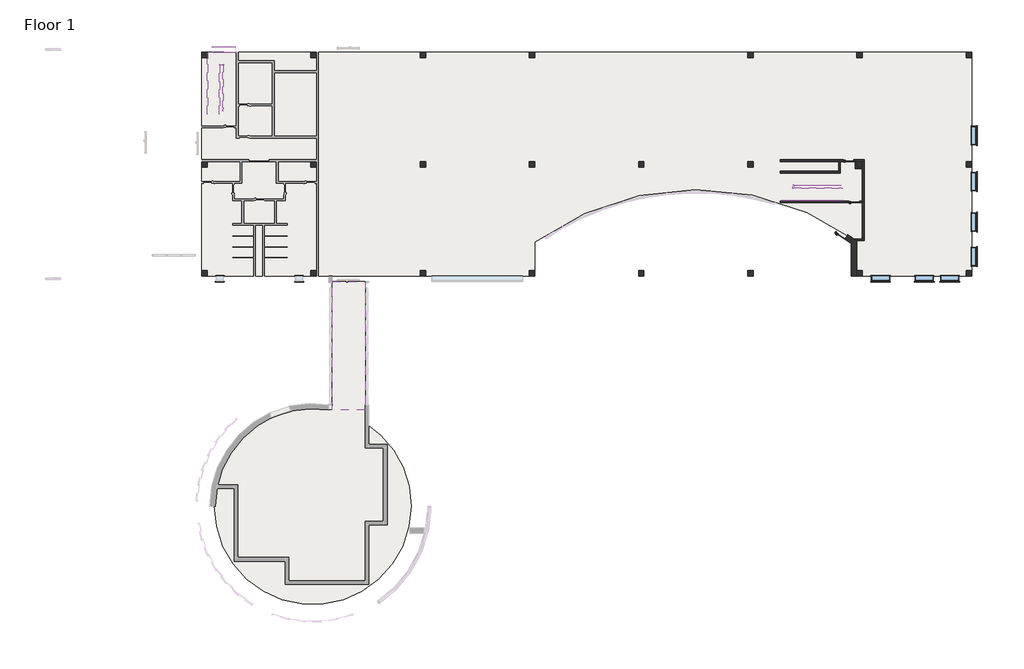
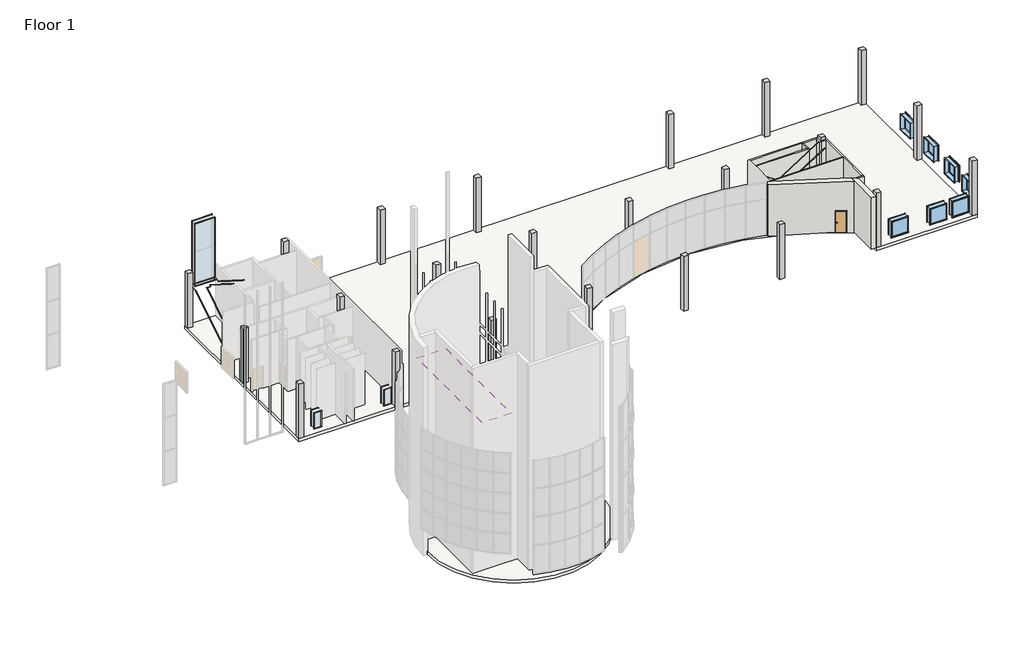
# One storey, part 11 of 11: 23 columns, 20 proxies, 10 walls, 7 windows, 4 railings, 3 doors, 2 slabs, 1 covering.
"""IFC4 building model written with IfcOpenShell, lengths in millimetres."""

from ifc_helpers import new_model, si_unit, point, frame, frame_2d, origin, origin_with_axes, place, context, project, spatial, polyline, circle_curve, trimmed, segment, composite_curve, outline, extrude, faceted_brep, transform, mapped, element, save
from ifc_brep_helpers import plane_surface, cylinder_surface, revolved_surface, advanced_brep
from components import trim_window_exterior_flat_with_sill_05ca63db, trim_window_exterior_flat_with_sill_953729a5, trim_window_exterior_flat_with_sill_4912eb0d, trim_window_interior_flat_picture_frame_a1a3bc7c, trim_window_interior_flat_picture_frame_4e25f6c2, trim_window_interior_flat_picture_frame_978fd00d, column_b6e10527, door_36f17018, door_fea31935, stair_railing_1_a10cea20, stair_railing_1_f20ecf36, stair_railing_1_b1bba10e, stair_railing_1_19f522ab, window_45f0c9e0

model = new_model("IFC4")

# Units and contexts
model_context = context("Model", 3, world=origin())
ifc_project = project(units=[si_unit("LENGTHUNIT", "METRE", prefix="MILLI")], contexts=[model_context])

# Site, building, storey
site = spatial("IfcSite", under=ifc_project)
building = spatial("IfcBuilding", under=site)
storey = spatial("IfcBuildingStorey", under=building, Name="Floor 1", Elevation=0.0)

# Proxies
placement = place(None, origin())
trim_window_exterior_flat_with_sill_shape = trim_window_exterior_flat_with_sill_05ca63db(model_context)
element("IfcBuildingElementProxy", 1, Name="Trim-Window-Exterior-Flat : with Sill", ObjectType="Trim-Window-Exterior-Flat : with Sill", at=placement, inside=storey, context=model_context, shape_type="MappedRepresentation", body=[
    mapped(trim_window_exterior_flat_with_sill_shape, transform((61956.9817024, 40245.511889, 2438.4), x_axis=(0.0, 1.0, 0.0), y_axis=(0.0, 0.0, 1.0), z_axis=(1.0, 0.0, 0.0))),
])
element("IfcBuildingElementProxy", 2, Name="Trim-Window-Exterior-Flat : with Sill", ObjectType="Trim-Window-Exterior-Flat : with Sill", at=placement, inside=storey, context=model_context, shape_type="MappedRepresentation", body=[
    mapped(trim_window_exterior_flat_with_sill_shape, transform((61956.9817024, 43141.111889, 2438.4), x_axis=(0.0, 1.0, 0.0), y_axis=(0.0, 0.0, 1.0), z_axis=(1.0, 0.0, 0.0))),
])
element("IfcBuildingElementProxy", 3, Name="Trim-Window-Exterior-Flat : with Sill", ObjectType="Trim-Window-Exterior-Flat : with Sill", at=placement, inside=storey, context=model_context, shape_type="MappedRepresentation", body=[
    mapped(trim_window_exterior_flat_with_sill_shape, transform((61956.9817024, 46544.711889, 2438.4), x_axis=(0.0, 1.0, 0.0), y_axis=(0.0, 0.0, 1.0), z_axis=(1.0, 0.0, 0.0))),
])
element("IfcBuildingElementProxy", 4, Name="Trim-Window-Exterior-Flat : with Sill", ObjectType="Trim-Window-Exterior-Flat : with Sill", at=placement, inside=storey, context=model_context, shape_type="MappedRepresentation", body=[
    mapped(trim_window_exterior_flat_with_sill_shape, transform((61956.9817024, 50405.511889, 2438.4), x_axis=(0.0, 1.0, 0.0), y_axis=(0.0, 0.0, 1.0), z_axis=(1.0, 0.0, 0.0))),
])
element("IfcBuildingElementProxy", 5, Name="Trim-Window-Exterior-Flat : with Sill", ObjectType="Trim-Window-Exterior-Flat : with Sill", at=placement, inside=storey, context=model_context, shape_type="MappedRepresentation", body=[
    mapped(trim_window_exterior_flat_with_sill_shape, transform((59672.5692024, 38164.299389, 2438.4), x_axis=(1.0, 0.0, 0.0), y_axis=(0.0, 0.0, 1.0), z_axis=(0.0, -1.0, 0.0))),
])
element("IfcBuildingElementProxy", 6, Name="Trim-Window-Exterior-Flat : with Sill", ObjectType="Trim-Window-Exterior-Flat : with Sill", at=placement, inside=storey, context=model_context, shape_type="MappedRepresentation", body=[
    mapped(trim_window_exterior_flat_with_sill_shape, transform((57538.9692024, 38164.299389, 2438.4), x_axis=(1.0, 0.0, 0.0), y_axis=(0.0, 0.0, 1.0), z_axis=(0.0, -1.0, 0.0))),
])
element("IfcBuildingElementProxy", 7, Name="Trim-Window-Exterior-Flat : with Sill", ObjectType="Trim-Window-Exterior-Flat : with Sill", at=placement, inside=storey, context=model_context, shape_type="MappedRepresentation", body=[
    mapped(trim_window_exterior_flat_with_sill_shape, transform((53881.3692024, 38164.299389, 2438.4), x_axis=(1.0, 0.0, 0.0), y_axis=(0.0, 0.0, 1.0), z_axis=(0.0, -1.0, 0.0))),
])
trim_window_exterior_flat_with_sill_2_shape = trim_window_exterior_flat_with_sill_953729a5(model_context)
element("IfcBuildingElementProxy", 8, Name="Trim-Window-Exterior-Flat : with Sill", ObjectType="Trim-Window-Exterior-Flat : with Sill", at=placement, inside=storey, context=model_context, shape_type="MappedRepresentation", body=[
    mapped(trim_window_exterior_flat_with_sill_2_shape, transform((-1084.2307976, 57820.724389, 9906.0), x_axis=(-1.0, 0.0, 0.0), y_axis=(0.0, 0.0, 1.0), z_axis=(0.0, 1.0, 0.0))),
])
trim_window_exterior_flat_with_sill_3_shape = trim_window_exterior_flat_with_sill_4912eb0d(model_context)
element("IfcBuildingElementProxy", 9, Name="Trim-Window-Exterior-Flat : with Sill", ObjectType="Trim-Window-Exterior-Flat : with Sill", at=placement, inside=storey, context=model_context, shape_type="MappedRepresentation", body=[
    mapped(trim_window_exterior_flat_with_sill_3_shape, transform((-1446.1807976, 38164.299389, 2438.4), x_axis=(1.0, 0.0, 0.0), y_axis=(0.0, 0.0, 1.0), z_axis=(0.0, -1.0, 0.0))),
])
element("IfcBuildingElementProxy", 10, Name="Trim-Window-Exterior-Flat : with Sill", ObjectType="Trim-Window-Exterior-Flat : with Sill", at=placement, inside=storey, context=model_context, shape_type="MappedRepresentation", body=[
    mapped(trim_window_exterior_flat_with_sill_3_shape, transform((5189.5692024, 38164.299389, 2438.4), x_axis=(1.0, 0.0, 0.0), y_axis=(0.0, 0.0, 1.0), z_axis=(0.0, -1.0, 0.0))),
])
trim_window_interior_flat_picture_frame_shape = trim_window_interior_flat_picture_frame_a1a3bc7c(model_context)
element("IfcBuildingElementProxy", 11, Name="Trim-Window-Interior-Flat : Picture Frame", ObjectType="Trim-Window-Interior-Flat : Picture Frame", at=placement, inside=storey, context=model_context, shape_type="MappedRepresentation", body=[
    mapped(trim_window_interior_flat_picture_frame_shape, transform((61502.9567024, 40245.511889, 2438.4), x_axis=(0.0, -1.0, 0.0), y_axis=(0.0, 0.0, 1.0), z_axis=(-1.0, 0.0, 0.0))),
])
element("IfcBuildingElementProxy", 12, Name="Trim-Window-Interior-Flat : Picture Frame", ObjectType="Trim-Window-Interior-Flat : Picture Frame", at=placement, inside=storey, context=model_context, shape_type="MappedRepresentation", body=[
    mapped(trim_window_interior_flat_picture_frame_shape, transform((61502.9567024, 43141.111889, 2438.4), x_axis=(0.0, -1.0, 0.0), y_axis=(0.0, 0.0, 1.0), z_axis=(-1.0, 0.0, 0.0))),
])
element("IfcBuildingElementProxy", 13, Name="Trim-Window-Interior-Flat : Picture Frame", ObjectType="Trim-Window-Interior-Flat : Picture Frame", at=placement, inside=storey, context=model_context, shape_type="MappedRepresentation", body=[
    mapped(trim_window_interior_flat_picture_frame_shape, transform((61502.9567024, 46544.711889, 2438.4), x_axis=(0.0, -1.0, 0.0), y_axis=(0.0, 0.0, 1.0), z_axis=(-1.0, 0.0, 0.0))),
])
element("IfcBuildingElementProxy", 14, Name="Trim-Window-Interior-Flat : Picture Frame", ObjectType="Trim-Window-Interior-Flat : Picture Frame", at=placement, inside=storey, context=model_context, shape_type="MappedRepresentation", body=[
    mapped(trim_window_interior_flat_picture_frame_shape, transform((61502.9567024, 50405.511889, 2438.4), x_axis=(0.0, -1.0, 0.0), y_axis=(0.0, 0.0, 1.0), z_axis=(-1.0, 0.0, 0.0))),
])
element("IfcBuildingElementProxy", 15, Name="Trim-Window-Interior-Flat : Picture Frame", ObjectType="Trim-Window-Interior-Flat : Picture Frame", at=placement, inside=storey, context=model_context, shape_type="MappedRepresentation", body=[
    mapped(trim_window_interior_flat_picture_frame_shape, transform((59672.5692024, 38618.324389, 2438.4), x_axis=(-1.0, 0.0, 0.0), y_axis=(0.0, 0.0, 1.0), z_axis=(0.0, 1.0, 0.0))),
])
element("IfcBuildingElementProxy", 16, Name="Trim-Window-Interior-Flat : Picture Frame", ObjectType="Trim-Window-Interior-Flat : Picture Frame", at=placement, inside=storey, context=model_context, shape_type="MappedRepresentation", body=[
    mapped(trim_window_interior_flat_picture_frame_shape, transform((57538.9692024, 38618.324389, 2438.4), x_axis=(-1.0, 0.0, 0.0), y_axis=(0.0, 0.0, 1.0), z_axis=(0.0, 1.0, 0.0))),
])
element("IfcBuildingElementProxy", 17, Name="Trim-Window-Interior-Flat : Picture Frame", ObjectType="Trim-Window-Interior-Flat : Picture Frame", at=placement, inside=storey, context=model_context, shape_type="MappedRepresentation", body=[
    mapped(trim_window_interior_flat_picture_frame_shape, transform((53881.3692024, 38618.324389, 2438.4), x_axis=(-1.0, 0.0, 0.0), y_axis=(0.0, 0.0, 1.0), z_axis=(0.0, 1.0, 0.0))),
])
trim_window_interior_flat_picture_frame_2_shape = trim_window_interior_flat_picture_frame_4e25f6c2(model_context)
element("IfcBuildingElementProxy", 18, Name="Trim-Window-Interior-Flat : Picture Frame", ObjectType="Trim-Window-Interior-Flat : Picture Frame", at=placement, inside=storey, context=model_context, shape_type="MappedRepresentation", body=[
    mapped(trim_window_interior_flat_picture_frame_2_shape, transform((-1084.2307976, 57366.699389, 9906.0), x_axis=(1.0, 0.0, 0.0), y_axis=(0.0, 0.0, 1.0), z_axis=(0.0, -1.0, 0.0))),
])
trim_window_interior_flat_picture_frame_3_shape = trim_window_interior_flat_picture_frame_978fd00d(model_context)
element("IfcBuildingElementProxy", 19, Name="Trim-Window-Interior-Flat : Picture Frame", ObjectType="Trim-Window-Interior-Flat : Picture Frame", at=placement, inside=storey, context=model_context, shape_type="MappedRepresentation", body=[
    mapped(trim_window_interior_flat_picture_frame_3_shape, transform((-1446.1807976, 38618.324389, 2438.4), x_axis=(-1.0, 0.0, 0.0), y_axis=(0.0, 0.0, 1.0), z_axis=(0.0, 1.0, 0.0))),
])
element("IfcBuildingElementProxy", 20, Name="Trim-Window-Interior-Flat : Picture Frame", ObjectType="Trim-Window-Interior-Flat : Picture Frame", at=placement, inside=storey, context=model_context, shape_type="MappedRepresentation", body=[
    mapped(trim_window_interior_flat_picture_frame_3_shape, transform((5189.5692024, 38618.324389, 2438.4), x_axis=(-1.0, 0.0, 0.0), y_axis=(0.0, 0.0, 1.0), z_axis=(0.0, 1.0, 0.0))),
])

# Columns
element("IfcColumn", 21, ObjectType="Rectangular Column1 : 18\" x 18\"", at=placement, inside=storey, context=model_context, shape_type="SweptSolid", body=[
    extrude(outline(polyline([(6637.3692024, 39077.111889), (6637.3692024, 38619.911889), (6180.1692024, 38619.911889), (6180.1692024, 39077.111889), (6637.3692024, 39077.111889)])), origin_with_axes(), (0.0, 0.0, 1.0), 5486.4),
])
element("IfcColumn", 22, ObjectType="Rectangular Column1 : 18\" x 18\"", at=placement, inside=storey, context=model_context, shape_type="SweptSolid", body=[
    extrude(outline(polyline([(-2506.6307976, 48221.111889), (-2506.6307976, 47763.911889), (-2963.8307976, 47763.911889), (-2963.8307976, 48221.111889), (-2506.6307976, 48221.111889)])), origin_with_axes(), (0.0, 0.0, 1.0), 5486.4),
])
element("IfcColumn", 23, ObjectType="Rectangular Column1 : 18\" x 18\"", at=placement, inside=storey, context=model_context, shape_type="SweptSolid", body=[
    extrude(outline(polyline([(6637.3692024, 48221.111889), (6637.3692024, 47763.911889), (6180.1692024, 47763.911889), (6180.1692024, 48221.111889), (6637.3692024, 48221.111889)])), origin_with_axes(), (0.0, 0.0, 1.0), 5486.4),
])
element("IfcColumn", 24, ObjectType="Rectangular Column1 : 18\" x 18\"", at=placement, inside=storey, context=model_context, shape_type="SweptSolid", body=[
    extrude(outline(polyline([(52357.3692024, 48221.111889), (52357.3692024, 47763.911889), (51900.1692024, 47763.911889), (51900.1692024, 48221.111889), (52357.3692024, 48221.111889)])), origin_with_axes(), (0.0, 0.0, 1.0), 5486.4),
])
element("IfcColumn", 25, ObjectType="Rectangular Column1 : 18\" x 18\"", at=placement, inside=storey, context=model_context, shape_type="SweptSolid", body=[
    extrude(outline(polyline([(6637.3692024, 57365.111889), (6637.3692024, 56907.911889), (6180.1692024, 56907.911889), (6180.1692024, 57365.111889), (6637.3692024, 57365.111889)])), origin_with_axes(), (0.0, 0.0, 1.0), 5486.4),
])
column_shape = column_b6e10527(model_context)
element("IfcColumn", 26, ObjectType="Rectangular Column1 : 18\" x 18\"", at=placement, inside=storey, context=model_context, shape_type="MappedRepresentation", body=[
    mapped(column_shape, transform((-2735.2307976, 38848.511889, 0.0), x_axis=(1.0, 0.0, 0.0), y_axis=(0.0, 1.0, 0.0), z_axis=(0.0, 0.0, 1.0))),
])
element("IfcColumn", 27, ObjectType="Rectangular Column1 : 18\" x 18\"", at=placement, inside=storey, context=model_context, shape_type="MappedRepresentation", body=[
    mapped(column_shape, transform((15552.7692024, 38848.511889, 0.0), x_axis=(1.0, 0.0, 0.0), y_axis=(0.0, 1.0, 0.0), z_axis=(0.0, 0.0, 1.0))),
])
element("IfcColumn", 28, ObjectType="Rectangular Column1 : 18\" x 18\"", at=placement, inside=storey, context=model_context, shape_type="MappedRepresentation", body=[
    mapped(column_shape, transform((24696.7692024, 38848.511889, 0.0), x_axis=(1.0, 0.0, 0.0), y_axis=(0.0, 1.0, 0.0), z_axis=(0.0, 0.0, 1.0))),
])
element("IfcColumn", 29, ObjectType="Rectangular Column1 : 18\" x 18\"", at=placement, inside=storey, context=model_context, shape_type="MappedRepresentation", body=[
    mapped(column_shape, transform((33840.7692024, 38848.511889, 0.0), x_axis=(1.0, 0.0, 0.0), y_axis=(0.0, 1.0, 0.0), z_axis=(0.0, 0.0, 1.0))),
])
element("IfcColumn", 30, ObjectType="Rectangular Column1 : 18\" x 18\"", at=placement, inside=storey, context=model_context, shape_type="MappedRepresentation", body=[
    mapped(column_shape, transform((42984.7692024, 38848.511889, 0.0), x_axis=(1.0, 0.0, 0.0), y_axis=(0.0, 1.0, 0.0), z_axis=(0.0, 0.0, 1.0))),
])
element("IfcColumn", 31, ObjectType="Rectangular Column1 : 18\" x 18\"", at=placement, inside=storey, context=model_context, shape_type="MappedRepresentation", body=[
    mapped(column_shape, transform((52128.7692024, 38848.511889, 0.0), x_axis=(1.0, 0.0, 0.0), y_axis=(0.0, 1.0, 0.0), z_axis=(0.0, 0.0, 1.0))),
])
element("IfcColumn", 32, ObjectType="Rectangular Column1 : 18\" x 18\"", at=placement, inside=storey, context=model_context, shape_type="MappedRepresentation", body=[
    mapped(column_shape, transform((61272.7692024, 38848.511889, 0.0), x_axis=(1.0, 0.0, 0.0), y_axis=(0.0, 1.0, 0.0), z_axis=(0.0, 0.0, 1.0))),
])
element("IfcColumn", 33, ObjectType="Rectangular Column1 : 18\" x 18\"", at=placement, inside=storey, context=model_context, shape_type="MappedRepresentation", body=[
    mapped(column_shape, transform((15552.7692024, 47992.511889, 0.0), x_axis=(1.0, 0.0, 0.0), y_axis=(0.0, 1.0, 0.0), z_axis=(0.0, 0.0, 1.0))),
])
element("IfcColumn", 34, ObjectType="Rectangular Column1 : 18\" x 18\"", at=placement, inside=storey, context=model_context, shape_type="MappedRepresentation", body=[
    mapped(column_shape, transform((24696.7692024, 47992.511889, 0.0), x_axis=(1.0, 0.0, 0.0), y_axis=(0.0, 1.0, 0.0), z_axis=(0.0, 0.0, 1.0))),
])
element("IfcColumn", 35, ObjectType="Rectangular Column1 : 18\" x 18\"", at=placement, inside=storey, context=model_context, shape_type="MappedRepresentation", body=[
    mapped(column_shape, transform((33840.7692024, 47992.511889, 0.0), x_axis=(1.0, 0.0, 0.0), y_axis=(0.0, 1.0, 0.0), z_axis=(0.0, 0.0, 1.0))),
])
element("IfcColumn", 36, ObjectType="Rectangular Column1 : 18\" x 18\"", at=placement, inside=storey, context=model_context, shape_type="MappedRepresentation", body=[
    mapped(column_shape, transform((42984.7692024, 47992.511889, 0.0), x_axis=(1.0, 0.0, 0.0), y_axis=(0.0, 1.0, 0.0), z_axis=(0.0, 0.0, 1.0))),
])
element("IfcColumn", 37, ObjectType="Rectangular Column1 : 18\" x 18\"", at=placement, inside=storey, context=model_context, shape_type="MappedRepresentation", body=[
    mapped(column_shape, transform((61272.7692024, 47992.511889, 0.0), x_axis=(1.0, 0.0, 0.0), y_axis=(0.0, 1.0, 0.0), z_axis=(0.0, 0.0, 1.0))),
])
element("IfcColumn", 38, ObjectType="Rectangular Column1 : 18\" x 18\"", at=placement, inside=storey, context=model_context, shape_type="MappedRepresentation", body=[
    mapped(column_shape, transform((-2735.2307976, 57136.511889, 0.0), x_axis=(1.0, 0.0, 0.0), y_axis=(0.0, 1.0, 0.0), z_axis=(0.0, 0.0, 1.0))),
])
element("IfcColumn", 39, ObjectType="Rectangular Column1 : 18\" x 18\"", at=placement, inside=storey, context=model_context, shape_type="MappedRepresentation", body=[
    mapped(column_shape, transform((15552.7692024, 57136.511889, 0.0), x_axis=(1.0, 0.0, 0.0), y_axis=(0.0, 1.0, 0.0), z_axis=(0.0, 0.0, 1.0))),
])
element("IfcColumn", 40, ObjectType="Rectangular Column1 : 18\" x 18\"", at=placement, inside=storey, context=model_context, shape_type="MappedRepresentation", body=[
    mapped(column_shape, transform((24696.7692024, 57136.511889, 0.0), x_axis=(1.0, 0.0, 0.0), y_axis=(0.0, 1.0, 0.0), z_axis=(0.0, 0.0, 1.0))),
])
element("IfcColumn", 41, ObjectType="Rectangular Column1 : 18\" x 18\"", at=placement, inside=storey, context=model_context, shape_type="MappedRepresentation", body=[
    mapped(column_shape, transform((42984.7692024, 57136.511889, 0.0), x_axis=(1.0, 0.0, 0.0), y_axis=(0.0, 1.0, 0.0), z_axis=(0.0, 0.0, 1.0))),
])
element("IfcColumn", 42, ObjectType="Rectangular Column1 : 18\" x 18\"", at=placement, inside=storey, context=model_context, shape_type="MappedRepresentation", body=[
    mapped(column_shape, transform((52128.7692024, 57136.511889, 0.0), x_axis=(1.0, 0.0, 0.0), y_axis=(0.0, 1.0, 0.0), z_axis=(0.0, 0.0, 1.0))),
])
element("IfcColumn", 43, ObjectType="Rectangular Column1 : 18\" x 18\"", at=placement, inside=storey, context=model_context, shape_type="MappedRepresentation", body=[
    mapped(column_shape, transform((61272.7692024, 57136.511889, 0.0), x_axis=(1.0, 0.0, 0.0), y_axis=(0.0, 1.0, 0.0), z_axis=(0.0, 0.0, 1.0))),
])

# Covering
element("IfcCovering", 44, ObjectType="2' x 2' ACT System", at=placement, inside=storey, context=model_context, shape_type="SweptSolid", body=[
    extrude(outline(polyline([(7986.4026119, 38164.299389), (10723.2526119, 38164.299389), (10723.2526119, 27403.0208402), (7986.4026119, 27403.0208402), (7986.4026119, 38164.299389)])), frame((0.0, 0.0, 4572.0), z_axis=(0.0, 0.0, 1.0), x_axis=(1.0, 0.0, 0.0)), (0.0, 0.0, 1.0), 57.15),
])

# Doors
door_shape = door_36f17018(model_context)
element("IfcDoor", 45, ObjectType="Door-Passage-Single-Flush : 36\" x 84\"", at=placement, inside=storey, context=model_context, shape_type="MappedRepresentation", body=[
    mapped(door_shape, transform((51195.3192024, 48297.311889, 0.0), x_axis=(1.0, 0.0, 0.0), y_axis=(0.0, 1.0, 0.0), z_axis=(0.0, 0.0, 1.0))),
])
element("IfcDoor", 46, ObjectType="Door-Passage-Single-Flush : 36\" x 84\"", at=placement, inside=storey, context=model_context, shape_type="MappedRepresentation", body=[
    mapped(door_shape, transform((51665.2192024, 44842.911889, 0.0), x_axis=(1.0, 0.0, 0.0), y_axis=(0.0, 1.0, 0.0), z_axis=(0.0, 0.0, 1.0))),
])
door_2_shape = door_fea31935(model_context)
element("IfcDoor", 47, ObjectType="Door-Passage-Single-Flush : 36\" x 84\"", at=placement, inside=storey, context=model_context, shape_type="MappedRepresentation", body=[
    mapped(door_2_shape, transform((50606.4782147, 42168.6048182, 0.0), x_axis=(0.8466581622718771, -0.5321371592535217, 0.0), y_axis=(0.5321371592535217, 0.8466581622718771, 0.0), z_axis=(0.0, 0.0, 1.0))),
])

# Railings
stair_railing_1_shape = stair_railing_1_a10cea20(model_context)
element("IfcRailing", 48, ObjectType="Stair Railing 1", at=placement, inside=storey, context=model_context, shape_type="MappedRepresentation", body=[
    mapped(stair_railing_1_shape, transform((0.0, 0.0, 0.0), x_axis=(1.0, 0.0, 0.0), y_axis=(0.0, 1.0, 0.0), z_axis=(0.0, 0.0, 1.0))),
])
stair_railing_1_2_shape = stair_railing_1_f20ecf36(model_context)
element("IfcRailing", 49, ObjectType="Stair Railing 1", at=placement, inside=storey, context=model_context, shape_type="MappedRepresentation", body=[
    mapped(stair_railing_1_2_shape, transform((0.0, 0.0, 0.0), x_axis=(1.0, 0.0, 0.0), y_axis=(0.0, 1.0, 0.0), z_axis=(0.0, 0.0, 1.0))),
])
stair_railing_1_3_shape = stair_railing_1_b1bba10e(model_context)
element("IfcRailing", 50, ObjectType="Stair Railing 1", at=placement, inside=storey, context=model_context, shape_type="MappedRepresentation", body=[
    mapped(stair_railing_1_3_shape, transform((0.0, 0.0, 0.0), x_axis=(1.0, 0.0, 0.0), y_axis=(0.0, 1.0, 0.0), z_axis=(0.0, 0.0, 1.0))),
])
stair_railing_1_4_shape = stair_railing_1_19f522ab(model_context)
element("IfcRailing", 51, ObjectType="Stair Railing 1", at=placement, inside=storey, context=model_context, shape_type="MappedRepresentation", body=[
    mapped(stair_railing_1_4_shape, transform((0.0, 0.0, 0.0), x_axis=(1.0, 0.0, 0.0), y_axis=(0.0, 1.0, 0.0), z_axis=(0.0, 0.0, 1.0))),
])

# Slabs
element("IfcSlab", 52, ObjectType="Generic - 12\"", at=placement, inside=storey, context=model_context, shape_type="SweptSolid", body=[
    extrude(outline(composite_curve([segment(trimmed(circle_curve(frame_2d((6332.5692024, 19341.311889)), 8229.6), [point((10723.2526119, 26301.787114))], [point((14562.1692024, 19341.311889))], False, "CARTESIAN"), True, "CONTINUOUS"), segment(trimmed(circle_curve(frame_2d((6332.5692024, 19341.311889)), 8229.6), [point((14562.1692024, 19341.311889))], [point((-1897.0307976, 19341.311889))], False, "CARTESIAN"), True, "CONTINUOUS"), segment(trimmed(circle_curve(frame_2d((6332.5692024, 19341.311889)), 8229.6), [point((-1897.0307976, 19341.311889))], [point((7986.4026119, 27403.0208402))], False, "CARTESIAN"), True, "CONTINUOUS"), segment(polyline([(7986.4026119, 27403.0208402), (7986.4026119, 38164.299389), (10723.2526119, 38164.299389), (10723.2526119, 26301.787114)]), True, "CONTINUOUS")], self_intersect=False)), frame((0.0, 0.0, -304.8), z_axis=(0.0, 0.0, 1.0), x_axis=(1.0, 0.0, 0.0)), (0.0, 0.0, 1.0), 304.8),
])
element("IfcSlab", 53, ObjectType="Generic - 12\"", at=placement, inside=storey, context=model_context, shape_type="SweptSolid", body=[
    extrude(outline(composite_curve([segment(polyline([(-2965.7977165, 57366.699389), (61502.9567024, 57366.699389), (61502.9567024, 38618.324389), (51898.5817024, 38618.324389), (51898.5817024, 41572.7203745)]), True, "CONTINUOUS"), segment(trimmed(circle_curve(frame_2d((38486.136956, 22884.5054507)), 23003.1095965), [point((51898.5817024, 41572.7203745))], [point((24926.9567024, 41466.5312272))], True, "CARTESIAN"), True, "CONTINUOUS"), segment(polyline([(24926.9567024, 41466.5312272), (24926.9567024, 38618.324389), (-2965.7977165, 38618.324389), (-2965.7977165, 57366.699389)]), True, "CONTINUOUS")], self_intersect=False)), frame((0.0, 0.0, -304.8), z_axis=(0.0, 0.0, 1.0), x_axis=(1.0, 0.0, 0.0)), (0.0, 0.0, 1.0), 304.8),
])

# Walls
element("IfcWall", 54, ObjectType="Interior - 5 1/2\" Partition (1-hr)", at=placement, inside=storey, context=model_context, shape_type="Brep", body=[
    faceted_brep([(52497.0692024, 48360.811889, 0.0), (51703.3192024, 48360.811889, 0.0), (51703.3192024, 48360.811889, 2235.2), (50687.3192024, 48360.811889, 2235.2), (50687.3192024, 48360.811889, 0.0), (45482.274456, 48360.811889, 0.0), (45482.274456, 48360.811889, 5181.6), (52497.0692024, 48360.811889, 5181.6), (51703.3192024, 48221.111889, 2235.2), (51703.3192024, 48221.111889, 0.0), (51760.4692024, 48221.111889, 0.0), (51900.1692024, 48221.111889, 0.0), (52357.3692024, 48221.111889, 0.0), (52497.0692024, 48221.111889, 0.0), (52497.0692024, 48221.111889, 5181.6), (52357.3692024, 48221.111889, 5181.6), (51900.1692024, 48221.111889, 5181.6), (51760.4692024, 48221.111889, 5181.6), (50522.2192024, 48221.111889, 5181.6), (50382.5192024, 48221.111889, 5181.6), (45482.274456, 48221.111889, 5181.6), (45482.274456, 48221.111889, 0.0), (50382.5192024, 48221.111889, 0.0), (50522.2192024, 48221.111889, 0.0), (50687.3192024, 48221.111889, 0.0), (50687.3192024, 48221.111889, 2235.2)], [[[0, 1, 2, 3, 4, 5, 6, 7]], [[8, 9, 10, 11, 12, 13, 14, 15, 16, 17, 18, 19, 20, 21, 22, 23, 24, 25]], [[13, 12, 11, 10, 9, 1, 0]], [[24, 23, 22, 21, 5, 4]], [[21, 20, 6, 5]], [[14, 13, 0, 7]], [[20, 19, 18, 17, 16, 15, 14, 7, 6]], [[2, 1, 9, 8]], [[3, 2, 8, 25]], [[4, 3, 25, 24]]]),
])
element("IfcWall", 55, ObjectType="Interior - 5 1/2\" Partition (1-hr)", at=placement, inside=storey, context=model_context, shape_type="Brep", body=[
    faceted_brep([(52357.3692024, 48221.111889, 0.0), (52357.3692024, 47763.911889, 0.0), (52357.3692024, 47624.211889, 0.0), (52357.3692024, 41737.761889, 0.0), (52357.3692024, 41737.761889, 5181.6), (52357.3692024, 44766.711889, 5181.6), (52357.3692024, 44906.411889, 5181.6), (52357.3692024, 47624.211889, 5181.6), (52357.3692024, 47763.911889, 5181.6), (52357.3692024, 48221.111889, 5181.6), (52497.0692024, 48221.111889, 0.0), (52497.0692024, 48221.111889, 5181.6), (52497.0692024, 41737.761889, 5181.6), (52497.0692024, 41737.761889, 0.0)], [[[0, 1, 2, 3, 4, 5, 6, 7, 8, 9]], [[10, 11, 12, 13]], [[3, 2, 1, 0, 10, 13]], [[0, 9, 11, 10]], [[4, 3, 13, 12]], [[9, 8, 7, 6, 5, 4, 12, 11]]]),
])
element("IfcWall", 56, ObjectType="Interior - 5 1/2\" Partition (1-hr)", at=placement, inside=storey, context=model_context, shape_type="AdvancedBrep", body=[
    advanced_brep(
    [(51863.2015273, 41598.061889, 0.0), (52497.0692024, 41598.061889, 0.0), (52497.0692024, 41598.061889, 5181.6), (51863.2015273, 41598.061889, 5181.6), (51665.5820424, 41737.761889, 0.0), (51665.5820424, 41737.761889, 5181.6), (52357.3692024, 41737.761889, 5181.6), (52497.0692024, 41737.761889, 5181.6), (52497.0692024, 41737.761889, 0.0), (52357.3692024, 41737.761889, 0.0)],
    [
        (0, 1),
        (1, 2),
        (2, 3),
        (3, 0),
        (4, 5),
        (5, 6),
        (6, 7),
        (7, 8),
        (8, 9),
        (9, 4),
        (0, 4, circle_curve(frame((38486.136956, 22884.5054507, 0.0), z_axis=(0.0, 0.0, 1.0), x_axis=(0.9578157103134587, -0.28738313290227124, 0.0)), 23003.1095965)),
        (8, 1),
        (7, 2),
        (3, 5, circle_curve(frame((38486.136956, 22884.5054507, 5181.6), z_axis=(0.0, 0.0, 1.0), x_axis=(0.9578157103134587, -0.28738313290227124, 0.0)), 23003.1095965)),
    ],
    [
        plane_surface(frame((49293.7475845, 41598.061889, 0.0), z_axis=(0.0, -1.0, 0.0), x_axis=(1.0, 0.0, 0.0))),
        plane_surface(frame((49293.7475845, 41737.761889, 0.0), z_axis=(0.0, 1.0, 0.0), x_axis=(-1.0, 0.0, 0.0))),
        plane_surface(frame((51367.6835063, 41598.061889, 0.0), z_axis=(0.0, 0.0, -1.0), x_axis=(0.0, 1.0, 0.0))),
        plane_surface(frame((52497.0692024, 48290.961889, 0.0), z_axis=(1.0, 0.0, 0.0), x_axis=(0.0, 1.0, 0.0))),
        revolved_surface(polyline([(60518.87671358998, 16273.799748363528, 5181.6), (60518.87671358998, 16273.799748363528, 0.0)]), (38486.136956, 22884.5054507, -259.08), (0.0, 0.0, 1.0)),
        plane_surface(frame((61502.9567024, 57366.699389, 5181.6), z_axis=(0.0, 0.0, 1.0), x_axis=(0.0, -1.0, 0.0))),
    ],
    [
        (0, [[1, 2, 3, 4]]),
        (1, [[5, 6, 7, 8, 9, 10]]),
        (2, [[-1, 11, -10, -9, 12]]),
        (3, [[-2, -12, -8, 13]]),
        (4, [[-4, 14, -5, -11]]),
        (5, [[-3, -13, -7, -6, -14]]),
    ],
),
])
element("IfcWall", 57, ObjectType="Interior - 5 1/2\" Partition (1-hr)", at=placement, inside=storey, context=model_context, shape_type="Brep", body=[
    faceted_brep([(51760.4692024, 48221.111889, 0.0), (51760.4692024, 47624.211889, 0.0), (51760.4692024, 47624.211889, 5181.6), (51760.4692024, 48221.111889, 5181.6), (51900.1692024, 48221.111889, 0.0), (51900.1692024, 48221.111889, 5181.6), (51900.1692024, 47763.911889, 5181.6), (51900.1692024, 47624.211889, 5181.6), (51900.1692024, 47624.211889, 0.0), (51900.1692024, 47763.911889, 0.0)], [[[0, 1, 2, 3]], [[4, 5, 6, 7, 8, 9]], [[1, 0, 4, 9, 8]], [[2, 1, 8, 7]], [[0, 3, 5, 4]], [[3, 2, 7, 6, 5]]]),
])
element("IfcWall", 58, ObjectType="Interior - 5 1/2\" Partition (1-hr)", at=placement, inside=storey, context=model_context, shape_type="SweptSolid", body=[
    extrude(outline(polyline([(52357.3692024, 47624.211889), (51900.1692024, 47624.211889), (51900.1692024, 47763.911889), (52357.3692024, 47763.911889), (52357.3692024, 47624.211889)])), origin_with_axes(), (0.0, 0.0, 1.0), 5181.6),
])
element("IfcWall", 59, ObjectType="Interior - 5 1/2\" Partition (1-hr)", at=placement, inside=storey, context=model_context, shape_type="Brep", body=[
    faceted_brep([(45482.274456, 47262.261889, 0.0), (50522.2192024, 47262.261889, 0.0), (50522.2192024, 47262.261889, 5181.6), (50253.8139908, 47262.261889, 5181.6), (45899.4192024, 47262.261889, 5181.6), (45482.274456, 47262.261889, 5181.6), (45482.274456, 47401.961889, 0.0), (45482.274456, 47401.961889, 5181.6), (50382.5192024, 47401.961889, 5181.6), (50522.2192024, 47401.961889, 5181.6), (50522.2192024, 47401.961889, 0.0), (50382.5192024, 47401.961889, 0.0)], [[[0, 1, 2, 3, 4, 5]], [[6, 7, 8, 9, 10, 11]], [[1, 0, 6, 11, 10]], [[2, 1, 10, 9]], [[0, 5, 7, 6]], [[5, 4, 3, 2, 9, 8, 7]]]),
])
element("IfcWall", 60, ObjectType="Interior - 5 1/2\" Partition (1-hr)", at=placement, inside=storey, context=model_context, shape_type="SweptSolid", body=[
    extrude(outline(polyline([(50382.5192024, 47401.961889), (50382.5192024, 48221.111889), (50522.2192024, 48221.111889), (50522.2192024, 47401.961889), (50382.5192024, 47401.961889)])), origin_with_axes(), (0.0, 0.0, 1.0), 5181.6),
])
element("IfcWall", 61, ObjectType="Interior - 5 1/2\" Partition (1-hr)", at=placement, inside=storey, context=model_context, shape_type="Brep", body=[
    faceted_brep([(45482.274456, 44906.411889, 5181.6), (45899.4192024, 44906.411889, 5181.6), (50327.5398084, 44906.411889, 5181.6), (52357.3692024, 44906.411889, 5181.6), (52357.3692024, 44906.411889, 762.0), (52173.2192024, 44906.411889, 762.0), (52173.2192024, 44906.411889, 2235.2), (51157.2192024, 44906.411889, 2235.2), (51157.2192024, 44906.411889, 762.0), (45482.274456, 44906.411889, 762.0), (52357.3692024, 44766.711889, 5181.6), (45482.274456, 44766.711889, 5181.6), (45482.274456, 44766.711889, 762.0), (51157.2192024, 44766.711889, 762.0), (51157.2192024, 44766.711889, 2235.2), (52173.2192024, 44766.711889, 2235.2), (52173.2192024, 44766.711889, 762.0), (52357.3692024, 44766.711889, 762.0), (45482.274456, 44797.9057162, 5181.6)], [[[0, 1, 2, 3, 4, 5, 6, 7, 8, 9]], [[10, 11, 12, 13, 14, 15, 16, 17]], [[4, 17, 16, 5]], [[12, 9, 8, 13]], [[11, 10, 3, 2, 1, 0, 18]], [[10, 17, 4, 3]], [[12, 11, 18, 0, 9]], [[15, 6, 5, 16]], [[6, 15, 14, 7]], [[7, 14, 13, 8]]]),
])
element("IfcWall", 62, ObjectType="Stone on CMU", at=placement, inside=storey, context=model_context, shape_type="AdvancedBrep", body=[
    advanced_brep(
    [(51898.5817024, 38618.324389, 0.0), (51898.5817024, 41572.7203745, 0.0), (51898.5817024, 41572.7203745, 5181.6), (51898.5817024, 38618.324389, 5181.6), (51444.5567024, 38618.324389, 0.0), (51444.5567024, 38618.324389, 5181.6), (51444.5567024, 41338.2469093, 5181.6), (51444.5567024, 41890.3574124, 5181.6), (51444.5567024, 41890.3574124, 0.0), (51444.5567024, 41338.2469093, 0.0), (51665.5822101, 41737.7617717, 0.0), (51863.2001903, 41598.0628294, 0.0), (51665.5820424, 41737.761889, 5181.6), (51863.2015273, 41598.061889, 5181.6)],
    [
        (0, 1),
        (1, 2),
        (2, 3),
        (3, 0),
        (4, 5),
        (5, 6),
        (6, 7),
        (7, 8),
        (8, 9),
        (9, 4),
        (0, 4),
        (8, 10, circle_curve(frame((38486.136956, 22884.5054507, 0.0), z_axis=(0.0, 0.0, -1.0), x_axis=(1.0, 0.0, 0.0)), 23003.1095965)),
        (10, 11, circle_curve(frame((38486.136956, 22884.5054507, 0.0), z_axis=(0.0, 0.0, -1.0), x_axis=(1.0, 0.0, 0.0)), 23003.1095965)),
        (11, 1, circle_curve(frame((38486.136956, 22884.5054507, 0.0), z_axis=(0.0, 0.0, -1.0), x_axis=(1.0, 0.0, 0.0)), 23003.1095841)),
        (7, 12, circle_curve(frame((38486.136956, 22884.5054507, 5181.6), z_axis=(0.0, 0.0, -1.0), x_axis=(1.0, 0.0, 0.0)), 23003.1095965)),
        (12, 13, circle_curve(frame((38486.136956, 22884.5054507, 5181.6), z_axis=(0.0, 0.0, -1.0), x_axis=(1.0, 0.0, 0.0)), 23003.1095965)),
        (13, 2, circle_curve(frame((38486.136956, 22884.5054507, 5181.6), z_axis=(0.0, 0.0, -1.0), x_axis=(1.0, 0.0, 0.0)), 23003.1095965)),
        (3, 5),
    ],
    [
        plane_surface(frame((51898.5817024, 38848.511889, 0.0), z_axis=(1.0, 0.0, 0.0), x_axis=(0.0, 1.0, 0.0))),
        plane_surface(frame((51444.5567024, 38848.511889, 0.0), z_axis=(-1.0, 0.0, 0.0), x_axis=(0.0, -1.0, 0.0))),
        plane_surface(frame((51898.5817024, 38391.311889, 0.0), z_axis=(0.0, 0.0, -1.0), x_axis=(-1.0, 0.0, 0.0))),
        cylinder_surface(frame((38486.136956, 22884.5054507, 0.0), z_axis=(0.0, 0.0, 1.0), x_axis=(1.0, 0.0, 0.0)), 23003.1095965),
        plane_surface(frame((61272.7692024, 38618.324389, -152.4), z_axis=(0.0, -1.0, 0.0), x_axis=(-1.0, 0.0, 0.0))),
        plane_surface(frame((61502.9567024, 57366.699389, 5181.6), z_axis=(0.0, 0.0, 1.0), x_axis=(0.0, -1.0, 0.0))),
    ],
    [
        (0, [[1, 2, 3, 4]]),
        (1, [[5, 6, 7, 8, 9, 10]]),
        (2, [[-1, 11, -10, -9, 12, 13, 14]]),
        (3, [[-2, -14, -13, -12, -8, 15, 16, 17]]),
        (4, [[-4, 18, -5, -11]]),
        (5, [[-3, -17, -16, -15, -7, -6, -18]]),
    ],
),
])
element("IfcWall", 63, ObjectType="Stone on CMU", at=placement, inside=storey, context=model_context, shape_type="AdvancedBrep", body=[
    advanced_brep(
    [(51444.5567024, 41338.2469093, 0.0), (50912.3997033, 41700.7008759, 0.0), (51154.065513, 42085.1991809, 0.0), (51444.5567024, 41890.3574124, 0.0), (50052.1950104, 42241.3522297, 0.0), (44966.3635315, 44482.3729305, 0.0), (45096.8426584, 44917.2452084, 0.0), (45342.5867664, 44842.013119, 0.0), (45482.280153, 44797.9038841, 0.0), (50293.8587081, 42625.8518622, 0.0), (50912.3997033, 41700.7008759, 2235.2), (51444.5567024, 41338.2469093, 5181.6), (44966.3635315, 44482.3729305, 5181.6), (50052.1950104, 42241.3522297, 2235.2), (51154.0654837, 42085.1991343, 2235.2), (50293.8587081, 42625.8518622, 2235.2), (45096.8426584, 44917.2452084, 5181.6), (45342.574456, 44842.0170566, 5181.6), (45482.274456, 44797.9057162, 5181.6), (51444.5567024, 41890.3574124, 5181.6)],
    [
        (0, 1, circle_curve(frame((38486.136956, 22884.5054507, 0.0), z_axis=(0.0, 0.0, 1.0), x_axis=(1.0, 0.0, 0.0)), 22549.0845965)),
        (1, 2),
        (2, 3, circle_curve(frame((38486.136956, 22884.5054507, 0.0), z_axis=(0.0, 0.0, -1.0), x_axis=(1.0, 0.0, 0.0)), 23003.1095965)),
        (3, 0),
        (4, 5, circle_curve(frame((38486.136956, 22884.5054507, 0.0), z_axis=(0.0, 0.0, 1.0), x_axis=(1.0, 0.0, 0.0)), 22549.0845965)),
        (5, 6),
        (6, 7, circle_curve(frame((38486.136956, 22884.5054507, 0.0), z_axis=(0.0, 0.0, -1.0), x_axis=(1.0, 0.0, 0.0)), 23003.1095965)),
        (7, 8, circle_curve(frame((38486.136956, 22884.5054507, 0.0), z_axis=(0.0, 0.0, -1.0), x_axis=(1.0, 0.0, 0.0)), 23003.1095073)),
        (8, 9, circle_curve(frame((38486.136956, 22884.5054507, 0.0), z_axis=(0.0, 0.0, -1.0), x_axis=(1.0, 0.0, 0.0)), 23003.109584)),
        (9, 4),
        (10, 1),
        (0, 11),
        (11, 12, circle_curve(frame((38486.136956, 22884.5054507, 5181.6), z_axis=(0.0, 0.0, 1.0), x_axis=(1.0, 0.0, 0.0)), 22549.0845965)),
        (12, 5),
        (4, 13),
        (13, 10, circle_curve(frame((38486.136956, 22884.5054507, 2235.2), z_axis=(0.0, 0.0, -1.0), x_axis=(1.0, 0.0, 0.0)), 22549.0845965)),
        (2, 14),
        (14, 15, circle_curve(frame((38486.136956, 22884.5054507, 2235.2), z_axis=(0.0, 0.0, 1.0), x_axis=(1.0, 0.0, 0.0)), 23003.1095965)),
        (15, 9),
        (6, 16),
        (16, 17, circle_curve(frame((38486.136956, 22884.5054507, 5181.6), z_axis=(0.0, 0.0, -1.0), x_axis=(1.0, 0.0, 0.0)), 23003.1095965)),
        (17, 18, circle_curve(frame((38486.136956, 22884.5054507, 5181.6), z_axis=(0.0, 0.0, -1.0), x_axis=(1.0, 0.0, 0.0)), 23003.1095965)),
        (18, 19, circle_curve(frame((38486.136956, 22884.5054507, 5181.6), z_axis=(0.0, 0.0, -1.0), x_axis=(1.0, 0.0, 0.0)), 23003.1095965)),
        (19, 3),
        (12, 16),
        (19, 11),
        (10, 14),
        (13, 15),
    ],
    [
        plane_surface(frame((61035.2215526, 22884.5054507, 0.0), z_axis=(0.0, 0.0, -1.0), x_axis=(0.0, 1.0, 0.0))),
        revolved_surface(polyline([(61035.22155250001, 22884.5054507, 0.0), (61035.22155250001, 22884.5054507, 5181.6)]), (38486.136956, 22884.5054507, 0.0), (0.0, 0.0, -1.0)),
        cylinder_surface(frame((38486.136956, 22884.5054507, 0.0), z_axis=(0.0, 0.0, 1.0), x_axis=(1.0, 0.0, 0.0)), 23003.1095965),
        plane_surface(frame((45096.8426584, 44917.2452084, 5181.6), z_axis=(-0.9578157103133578, 0.2873831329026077, 0.0), x_axis=(0.0, 0.0, -1.0))),
        plane_surface(frame((51444.5567024, 38848.511889, 0.0), z_axis=(1.0, 0.0, 0.0), x_axis=(0.0, -1.0, 0.0))),
        plane_surface(frame((61502.9567024, 57366.699389, 5181.6), z_axis=(0.0, 0.0, 1.0), x_axis=(0.0, -1.0, 0.0))),
        plane_surface(frame((51154.0654837, 42085.1991343, 0.0), z_axis=(-0.8466552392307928, 0.5321418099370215, 0.0), x_axis=(-0.5321418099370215, -0.8466552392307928, 0.0))),
        plane_surface(frame((51154.063401, 42085.2005084, 2235.2), z_axis=(0.0, 0.0, -1.0), x_axis=(-0.5321371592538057, -0.8466581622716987, 0.0))),
        plane_surface(frame((50293.8565667, 42625.853143, 2235.2), z_axis=(0.8466610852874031, -0.5321325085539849, 0.0), x_axis=(-0.5321325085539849, -0.8466610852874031, 0.0))),
    ],
    [
        (0, [[1, 2, 3, 4]]),
        (0, [[5, 6, 7, 8, 9, 10]]),
        (1, [[11, -1, 12, 13, 14, -5, 15, 16]]),
        (2, [[-3, 17, 18, 19, -9, -8, -7, 20, 21, 22, 23, 24]]),
        (3, [[25, -20, -6, -14]]),
        (4, [[26, -12, -4, -24]]),
        (5, [[-13, -26, -23, -22, -21, -25]]),
        (6, [[-17, -2, -11, 27]]),
        (7, [[-18, -27, -16, 28]]),
        (8, [[-19, -28, -15, -10]]),
    ],
),
])

# Windows
window_shape = window_45f0c9e0(model_context)
element("IfcWindow", 64, ObjectType="Window-Fixed : 60\" x 60\"", at=placement, inside=storey, context=model_context, shape_type="MappedRepresentation", body=[
    mapped(window_shape, transform((53881.3692024, 38391.311889, 0.0), x_axis=(-1.0, 0.0, 0.0), y_axis=(0.0, -1.0, 0.0), z_axis=(0.0, 0.0, 1.0))),
])
element("IfcWindow", 65, ObjectType="Window-Fixed : 60\" x 60\"", at=placement, inside=storey, context=model_context, shape_type="MappedRepresentation", body=[
    mapped(window_shape, transform((57538.9692024, 38391.311889, 0.0), x_axis=(-1.0, 0.0, 0.0), y_axis=(0.0, -1.0, 0.0), z_axis=(0.0, 0.0, 1.0))),
])
element("IfcWindow", 66, ObjectType="Window-Fixed : 60\" x 60\"", at=placement, inside=storey, context=model_context, shape_type="MappedRepresentation", body=[
    mapped(window_shape, transform((59672.5692024, 38391.311889, 0.0), x_axis=(-1.0, 0.0, 0.0), y_axis=(0.0, -1.0, 0.0), z_axis=(0.0, 0.0, 1.0))),
])
element("IfcWindow", 67, ObjectType="Window-Fixed : 60\" x 60\"", at=placement, inside=storey, context=model_context, shape_type="MappedRepresentation", body=[
    mapped(window_shape, transform((61729.9692024, 50405.511889, 0.0), x_axis=(0.0, -1.0, 0.0), y_axis=(1.0, 0.0, 0.0), z_axis=(0.0, 0.0, 1.0))),
])
element("IfcWindow", 68, ObjectType="Window-Fixed : 60\" x 60\"", at=placement, inside=storey, context=model_context, shape_type="MappedRepresentation", body=[
    mapped(window_shape, transform((61729.9692024, 46544.711889, 0.0), x_axis=(0.0, -1.0, 0.0), y_axis=(1.0, 0.0, 0.0), z_axis=(0.0, 0.0, 1.0))),
])
element("IfcWindow", 69, ObjectType="Window-Fixed : 60\" x 60\"", at=placement, inside=storey, context=model_context, shape_type="MappedRepresentation", body=[
    mapped(window_shape, transform((61729.9692024, 43141.111889, 0.0), x_axis=(0.0, -1.0, 0.0), y_axis=(1.0, 0.0, 0.0), z_axis=(0.0, 0.0, 1.0))),
])
element("IfcWindow", 70, ObjectType="Window-Fixed : 60\" x 60\"", at=placement, inside=storey, context=model_context, shape_type="MappedRepresentation", body=[
    mapped(window_shape, transform((61729.9692024, 40245.511889, 0.0), x_axis=(0.0, -1.0, 0.0), y_axis=(1.0, 0.0, 0.0), z_axis=(0.0, 0.0, 1.0))),
])

save(model, "model.ifc")
